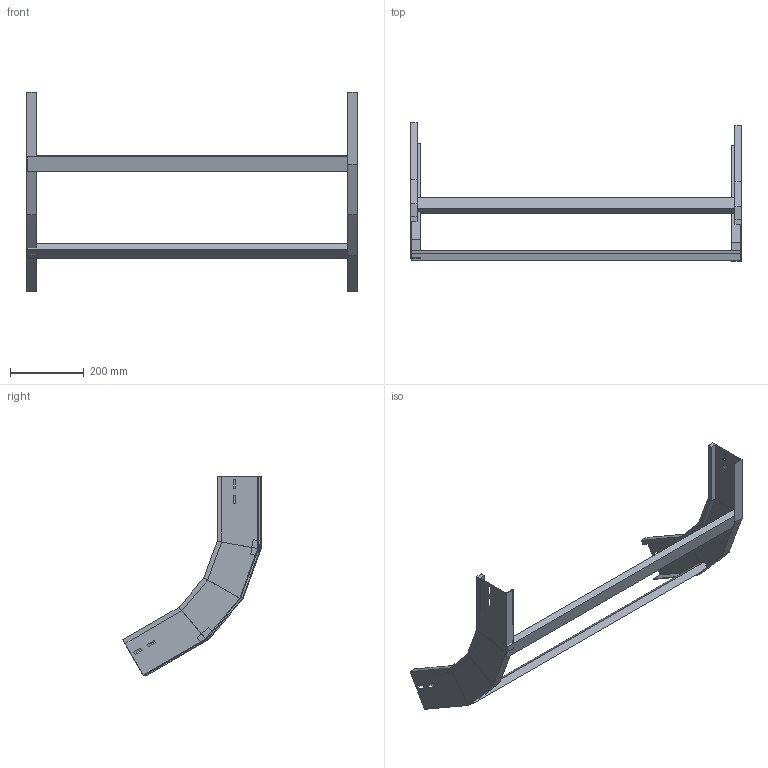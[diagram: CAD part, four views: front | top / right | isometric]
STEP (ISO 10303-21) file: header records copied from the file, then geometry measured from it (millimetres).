
FILE_DESCRIPTION (( 'STEP AP214' ), '1' );
FILE_NAME ('A2X40B3J900XX.step', '2025-04-02T10:26:16', ( '' ), ( '' ), 'SwSTEP 2.0', 'SolidWorks 2023', '' );
FILE_SCHEMA (( 'AUTOMOTIVE_DESIGN' ));
Length unit declared in the file: millimetre
Products named in the file (3): LONGH.SALITA_60°_H112.5_R300; A2X40B3J900XX; TRAVERSINO_900
Assembly tree (4 placements, depth 2):
  A2X40B3J900XX
    LONGH.SALITA_60°_H112.5_R300  x2
    TRAVERSINO_900  x2
Bounding box: 900 x 376.69 x 542.06 mm (x, y, z)
Volume: 2016826.1 mm3; surface area: 610657.4 mm2
Topology: 4 solids, 4 shells, 112 faces, 264 edges, 160 vertices
Faces by surface type: plane 112
Entity records: 1664 total; most frequent: CARTESIAN_POINT 275, ORIENTED_EDGE 264, DIRECTION 258, VECTOR 132, EDGE_CURVE 132, LINE 132, VERTEX_POINT 80, EDGE_LOOP 64
